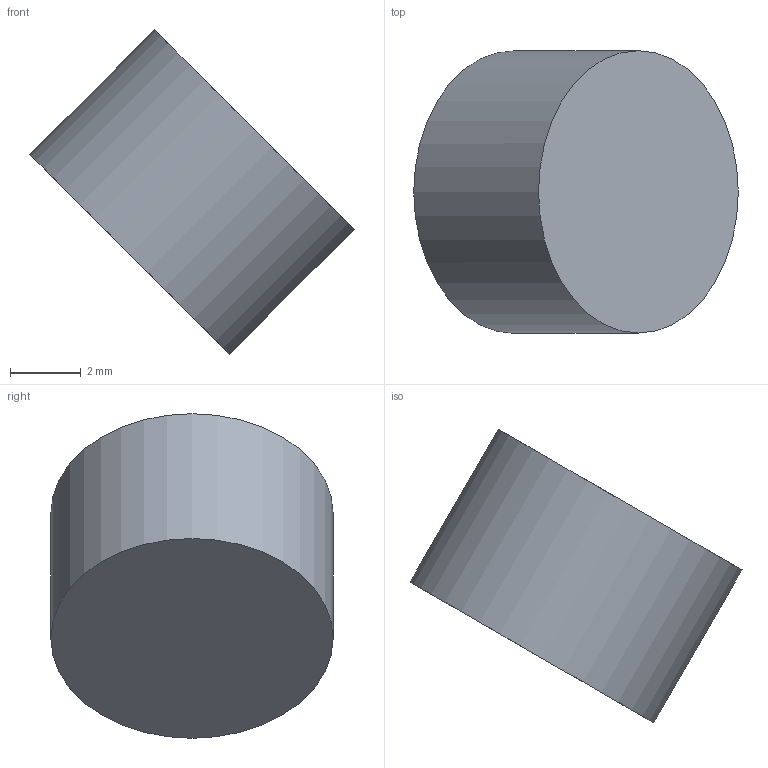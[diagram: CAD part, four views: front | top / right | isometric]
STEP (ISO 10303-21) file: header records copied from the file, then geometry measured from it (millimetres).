
FILE_DESCRIPTION(('Open CASCADE Model'),'2;1');
FILE_NAME('Open CASCADE Shape Model','2026-10-16T05:11:25',('Author'),( 'Open CASCADE'),'Open CASCADE STEP processor 7.9','Open CASCADE 7.9' ,'Unknown');
FILE_SCHEMA(('AUTOMOTIVE_DESIGN { 1 0 10303 214 1 1 1 1 }'));
Length unit declared in the file: millimetre
Products named in the file (1): Open CASCADE STEP translator 7.9 3
Bounding box: 9.19 x 8 x 9.19 mm (x, y, z)
Volume: 251.3 mm3; surface area: 226.2 mm2
Topology: 1 solids, 1 shells, 3 faces, 3 edges, 2 vertices
Faces by surface type: plane 2, cylinder 1
Full cylindrical faces by diameter (mm): 8 x1
Entity records: 108 total; most frequent: DIRECTION 19, CARTESIAN_POINT 15, AXIS2_PLACEMENT_3D 6, ORIENTED_EDGE 6, PCURVE 6, DEFINITIONAL_REPRESENTATION 6, LINE 5, VECTOR 5
